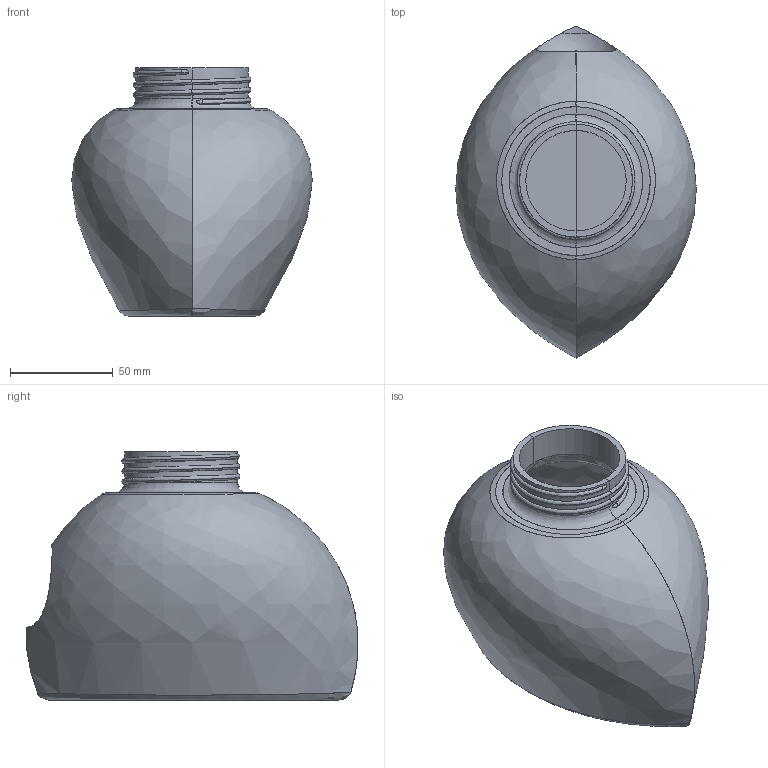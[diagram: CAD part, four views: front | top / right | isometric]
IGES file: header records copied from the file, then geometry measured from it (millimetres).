
Start section: START RECORD GO HERE.
Global section: file name: c1-Arcusa_Gil_de_Oliveira_Victor-solucion-posible.igs; native system: IBM CATIA IGES - CATIA Version 5 Release 19 ; preprocessor: CATIA Version 5 Release 19 ; author: andres.garcia; organization: IQS; date: 20200131.143905; units: millimetre
Bounding box: 117.22 x 161.78 x 121 mm (x, y, z)
Surface area: 106489.2 mm2 (no closed solid volume)
Topology: 0 solids, 0 shells, 54 faces, 252 edges, 248 vertices
Faces by surface type: bspline 32, revolution 16, plane 6
